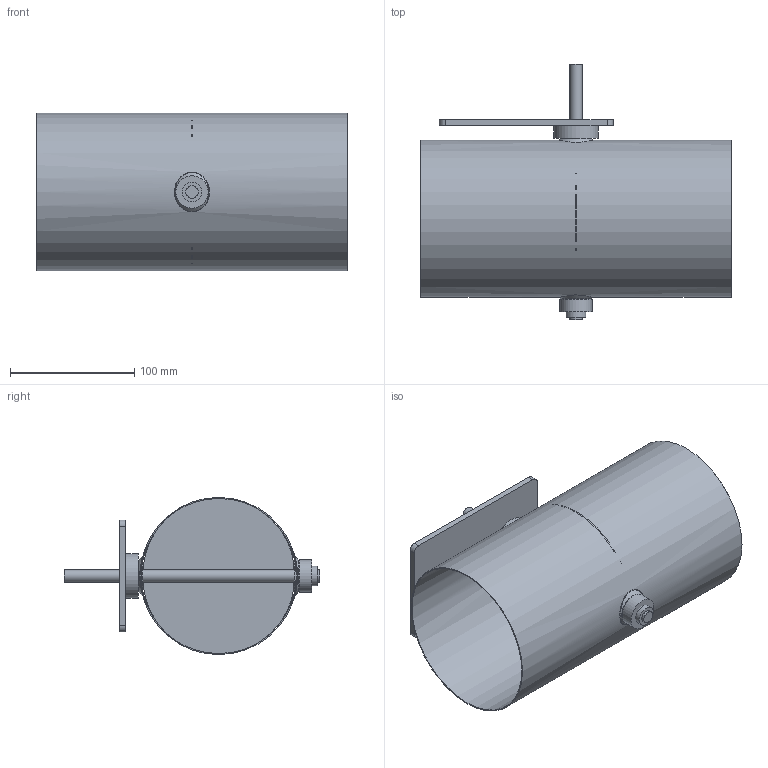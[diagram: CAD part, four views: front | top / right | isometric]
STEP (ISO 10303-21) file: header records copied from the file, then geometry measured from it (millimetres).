
FILE_DESCRIPTION(/* description */ (''),/* implementation_level */ '2;1');
FILE_NAME(/* name */ 'AA122-80B__125_L250_Belimo_Typ_NM.stp',/* time_stamp */ '2017-12-05T13:55:08+01:00',/* author */ (''),/* organization */ (''),/* preprocessor_version */ 'ST-DEVELOPER v11',/* originating_system */ 'SIEMENS UGS NX 6.0',/* authorisation */ '');
FILE_SCHEMA (('CONFIG_CONTROL_DESIGN'));
Length unit declared in the file: millimetre
Products named in the file (1): gars1E3Bhijx
Bounding box: 250 x 206 x 126.6 mm (x, y, z)
Volume: 186969.3 mm3; surface area: 266296.5 mm2
Topology: 8 solids, 8 shells, 66 faces, 142 edges, 98 vertices
Faces by surface type: plane 28, cylinder 26, cone 4, bspline 4, torus 4
Full cylindrical faces by diameter (mm): 4.1 x4, 10 x3, 15 x3, 15.85 x2, 16 x2, 24 x2, 26 x1, 36 x1, 125 x1, 126.6 x1
Entity records: 2224 total; most frequent: CARTESIAN_POINT 871, DIRECTION 270, ORIENTED_EDGE 184, EDGE_LOOP 128, AXIS2_PLACEMENT_3D 123, FACE_BOUND 114, EDGE_CURVE 92, VERTEX_POINT 80
